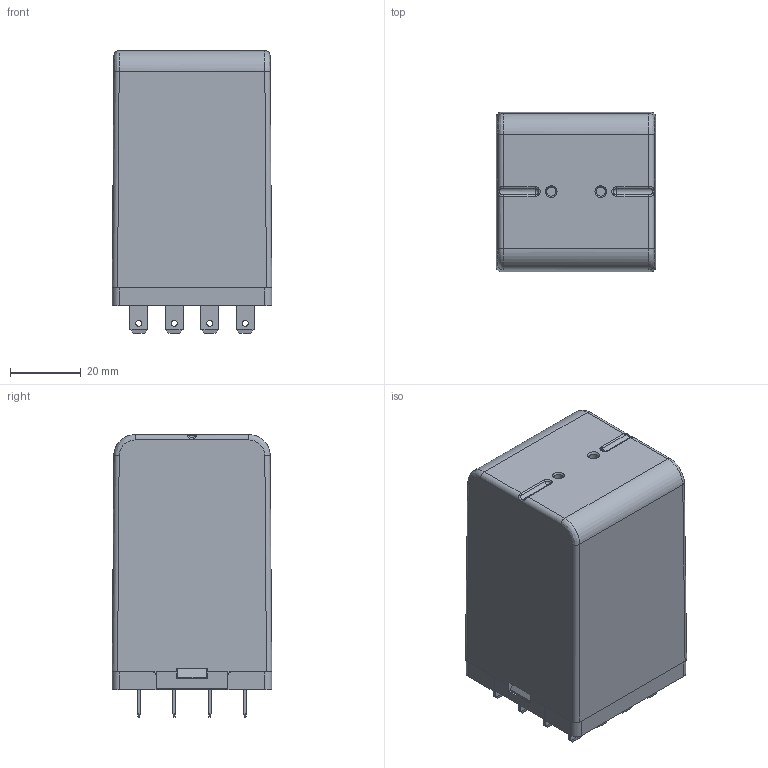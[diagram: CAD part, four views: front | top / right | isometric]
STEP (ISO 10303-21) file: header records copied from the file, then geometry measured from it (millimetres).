
FILE_DESCRIPTION((''),'2;1');
FILE_NAME('C:\Documents and Settings\Arnoud\Bureaublad\A400-F.stp','2009-03-04T15:35:56',('Arnoud'),(''),'Autodesk Inventor 2009','Autodesk Inventor 2009','');
FILE_SCHEMA(('AUTOMOTIVE_DESIGN { 1 0 10303 214 1 1 1 1 }'));
Length unit declared in the file: millimetre
Products named in the file (1): A400-F
Bounding box: 45 x 45 x 79.7 mm (x, y, z)
Volume: 35614.2 mm3; surface area: 38375.9 mm2
Topology: 1 solids, 1 shells, 912 faces, 2634 edges, 1632 vertices
Faces by surface type: plane 745, cylinder 145, bspline 14, cone 4, torus 2, sphere 2
Full cylindrical faces by diameter (mm): 1.6 x16, 1.7 x16, 2.625 x2, 3.1 x4, 3.15 x4, 3.5 x4
Entity records: 30890 total; most frequent: CARTESIAN_POINT 6752, ORIENTED_EDGE 5156, DIRECTION 4680, EDGE_CURVE 2578, VECTOR 2258, LINE 2258, VERTEX_POINT 1628, AXIS2_PLACEMENT_3D 1211
